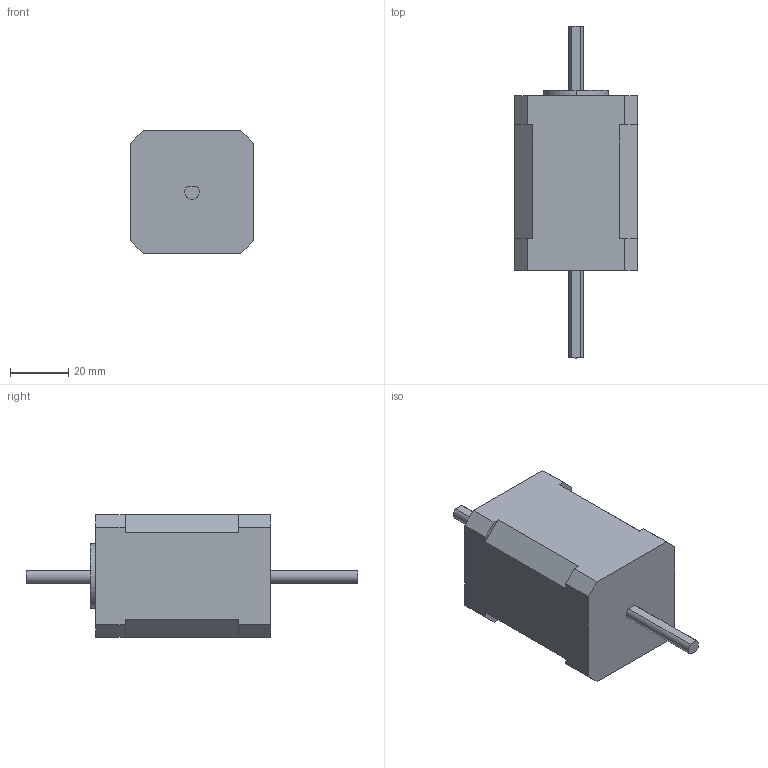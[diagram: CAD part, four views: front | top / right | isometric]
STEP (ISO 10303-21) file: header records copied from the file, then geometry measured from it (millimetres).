
FILE_DESCRIPTION (( 'STEP AP214' ), '1' );
FILE_NAME ('42A08-D（42HS60-DC0524-002）.STEP', '2020-05-05T05:01:07', ( 'wimxt.com' ), ( 'wimxt.com' ), 'SwSTEP 2.0', 'SolidWorks 2014', '' );
FILE_SCHEMA (( 'AUTOMOTIVE_DESIGN' ));
Length unit declared in the file: millimetre
Products named in the file (1): 42A08-D（42HS60-DC0524-002）
Bounding box: 42 x 114 x 42 mm (x, y, z)
Volume: 102166.4 mm3; surface area: 16007.8 mm2
Topology: 1 solids, 1 shells, 48 faces, 117 edges, 78 vertices
Faces by surface type: plane 35, cylinder 13
Entity records: 1441 total; most frequent: CARTESIAN_POINT 244, DIRECTION 241, ORIENTED_EDGE 234, EDGE_CURVE 117, VECTOR 91, LINE 91, VERTEX_POINT 78, AXIS2_PLACEMENT_3D 75
